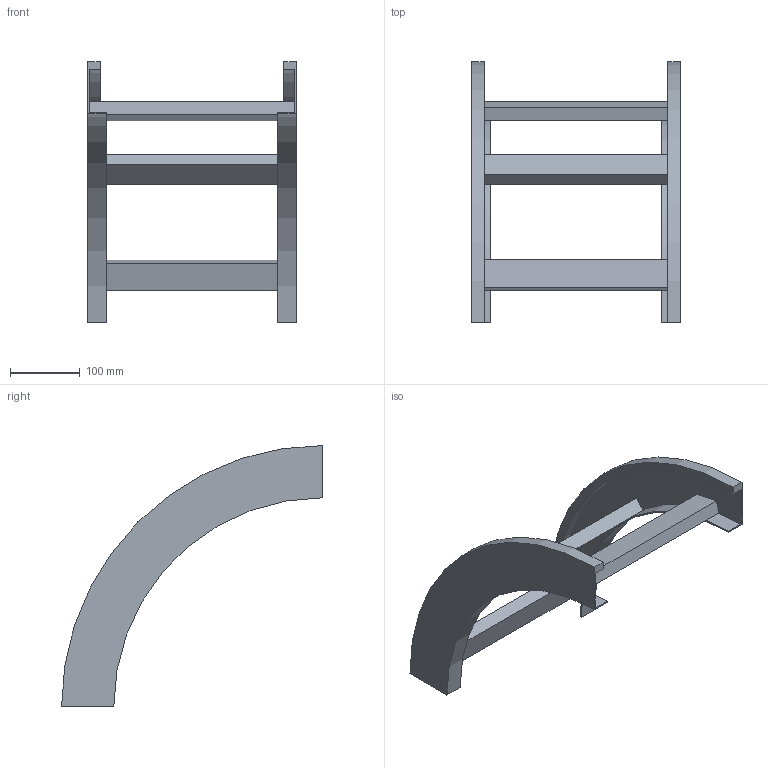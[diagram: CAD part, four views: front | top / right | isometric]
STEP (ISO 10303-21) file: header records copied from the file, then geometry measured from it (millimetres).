
FILE_DESCRIPTION (( 'STEP AP214' ), '1' );
FILE_NAME ('B2_33B3C300.step', '2025-02-21T15:06:01', ( '' ), ( '' ), 'SwSTEP 2.0', 'SolidWorks 2023', '' );
FILE_SCHEMA (( 'AUTOMOTIVE_DESIGN' ));
Length unit declared in the file: millimetre
Products named in the file (3): B2_LONGH.DISCESA_90°_H75_R300; B2_33B3C300; TRAVERSINO_300
Assembly tree (5 placements, depth 2):
  B2_33B3C300
    B2_LONGH.DISCESA_90°_H75_R300  x2
    TRAVERSINO_300  x3
Bounding box: 300 x 375 x 375 mm (x, y, z)
Volume: 1148179.7 mm3; surface area: 361537.2 mm2
Topology: 5 solids, 5 shells, 38 faces, 84 edges, 56 vertices
Faces by surface type: plane 30, cylinder 8
Entity records: 560 total; most frequent: DIRECTION 92, CARTESIAN_POINT 84, ORIENTED_EDGE 72, EDGE_CURVE 36, AXIS2_PLACEMENT_3D 32, VECTOR 28, LINE 28, VERTEX_POINT 24
